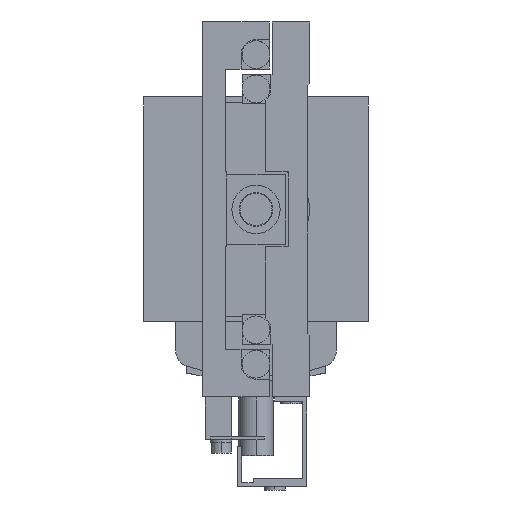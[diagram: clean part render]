
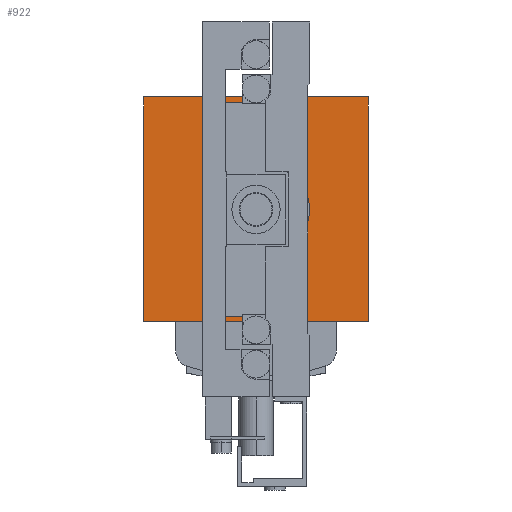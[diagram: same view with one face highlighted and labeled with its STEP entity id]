
A CAD part, left-side view. The second image highlights one B-rep face of the part: STEP entity #922.
In plain terms, the highlighted planar face has unit normal (-1, 0, 0).
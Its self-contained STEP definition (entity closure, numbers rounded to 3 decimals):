
#922=ADVANCED_FACE('',(#2249,#2250),#2251,.F.);
#2249=FACE_BOUND('',#3609,.T.);
#2250=FACE_OUTER_BOUND('',#3610,.T.);
#2251=PLANE('',#3611);
#3609=EDGE_LOOP('',(#8493,#8494,#8495,#8496,#8497,#8498,#8499,#8500,#8501,#8502,#8503,#8504,#8505,#8506,#8507,#8508));
#3610=EDGE_LOOP('',(#8509,#8510,#8511,#8512));
#3611=AXIS2_PLACEMENT_3D('',#8513,#8514,#8515);
#8493=ORIENTED_EDGE('',*,*,#10224,.F.);
#8494=ORIENTED_EDGE('',*,*,#10233,.F.);
#8495=ORIENTED_EDGE('',*,*,#10229,.F.);
#8496=ORIENTED_EDGE('',*,*,#10177,.T.);
#8497=ORIENTED_EDGE('',*,*,#10059,.F.);
#8498=ORIENTED_EDGE('',*,*,#10116,.F.);
#8499=ORIENTED_EDGE('',*,*,#10225,.F.);
#8500=ORIENTED_EDGE('',*,*,#10234,.F.);
#8501=ORIENTED_EDGE('',*,*,#10212,.T.);
#8502=ORIENTED_EDGE('',*,*,#10107,.F.);
#8503=ORIENTED_EDGE('',*,*,#10069,.T.);
#8504=ORIENTED_EDGE('',*,*,#10143,.T.);
#8505=ORIENTED_EDGE('',*,*,#10167,.F.);
#8506=ORIENTED_EDGE('',*,*,#10232,.F.);
#8507=ORIENTED_EDGE('',*,*,#10213,.T.);
#8508=ORIENTED_EDGE('',*,*,#10011,.F.);
#8509=ORIENTED_EDGE('',*,*,#10236,.F.);
#8510=ORIENTED_EDGE('',*,*,#10237,.F.);
#8511=ORIENTED_EDGE('',*,*,#10238,.F.);
#8512=ORIENTED_EDGE('',*,*,#10239,.F.);
#8513=CARTESIAN_POINT('',(72.5,-11.,21.));
#8514=DIRECTION('',(1.0,0.0,0.));
#8515=DIRECTION('',(0.0,-1.0,0.0));
#10011=EDGE_CURVE('',#12432,#12428,#12434,.F.);
#10059=EDGE_CURVE('',#12523,#12524,#12525,.T.);
#10069=EDGE_CURVE('',#12543,#12544,#12545,.T.);
#10107=EDGE_CURVE('',#12543,#12610,#12611,.T.);
#10116=EDGE_CURVE('',#12623,#12523,#12625,.T.);
#10143=EDGE_CURVE('',#12544,#12664,#12666,.T.);
#10167=EDGE_CURVE('',#12701,#12664,#12703,.T.);
#10177=EDGE_CURVE('',#12717,#12524,#12718,.T.);
#10212=EDGE_CURVE('',#12428,#12610,#12764,.T.);
#10213=EDGE_CURVE('',#12765,#12428,#12766,.T.);
#10224=EDGE_CURVE('',#12780,#12432,#12781,.T.);
#10225=EDGE_CURVE('',#12432,#12623,#12782,.T.);
#10229=EDGE_CURVE('',#12717,#12786,#12787,.T.);
#10232=EDGE_CURVE('',#12765,#12701,#12790,.T.);
#10233=EDGE_CURVE('',#12786,#12780,#12791,.T.);
#10234=EDGE_CURVE('',#12428,#12432,#12792,.F.);
#10236=EDGE_CURVE('',#12794,#12795,#12796,.T.);
#10237=EDGE_CURVE('',#12797,#12794,#12798,.T.);
#10238=EDGE_CURVE('',#12799,#12797,#12800,.T.);
#10239=EDGE_CURVE('',#12795,#12799,#12801,.T.);
#12428=VERTEX_POINT('',#15876);
#12432=VERTEX_POINT('',#15881);
#12434=CIRCLE('',#15884,10.);
#12523=VERTEX_POINT('',#15992);
#12524=VERTEX_POINT('',#15993);
#12525=LINE('',#15994,#15995);
#12543=VERTEX_POINT('',#16022);
#12544=VERTEX_POINT('',#16023);
#12545=LINE('',#16024,#16025);
#12610=VERTEX_POINT('',#16122);
#12611=LINE('',#16123,#16124);
#12623=VERTEX_POINT('',#16142);
#12625=LINE('',#16145,#16146);
#12664=VERTEX_POINT('',#16203);
#12666=LINE('',#16206,#16207);
#12701=VERTEX_POINT('',#16262);
#12703=LINE('',#16265,#16266);
#12717=VERTEX_POINT('',#16289);
#12718=LINE('',#16290,#16291);
#12764=LINE('',#16364,#16365);
#12765=VERTEX_POINT('',#16366);
#12766=LINE('',#16367,#16368);
#12780=VERTEX_POINT('',#16392);
#12781=LINE('',#16393,#16394);
#12782=LINE('',#16395,#16396);
#12786=VERTEX_POINT('',#16403);
#12787=LINE('',#16404,#16405);
#12790=LINE('',#16410,#16411);
#12791=LINE('',#16412,#16413);
#12792=CIRCLE('',#16414,10.);
#12794=VERTEX_POINT('',#16416);
#12795=VERTEX_POINT('',#16417);
#12796=LINE('',#16418,#16419);
#12797=VERTEX_POINT('',#16420);
#12798=LINE('',#16421,#16422);
#12799=VERTEX_POINT('',#16423);
#12800=LINE('',#16424,#16425);
#12801=LINE('',#16426,#16427);
#15876=CARTESIAN_POINT('',(72.5,10.0,10.));
#15881=CARTESIAN_POINT('',(72.5,10.0,-10.));
#15884=AXIS2_PLACEMENT_3D('',#18747,#18748,#18749);
#15992=CARTESIAN_POINT('',(72.5,18.5,-20.0));
#15993=CARTESIAN_POINT('',(72.5,1.5,-20.0));
#15994=CARTESIAN_POINT('',(72.5,223.901,-20.0));
#15995=VECTOR('',#18853,1000.0);
#16022=CARTESIAN_POINT('',(72.5,18.5,20.0));
#16023=CARTESIAN_POINT('',(72.5,1.5,20.0));
#16024=CARTESIAN_POINT('',(72.5,19.5,20.0));
#16025=VECTOR('',#18863,1000.0);
#16122=CARTESIAN_POINT('',(72.5,18.5,10.0));
#16123=CARTESIAN_POINT('',(72.5,18.5,20.0));
#16124=VECTOR('',#18911,1000.0);
#16142=CARTESIAN_POINT('',(72.5,18.5,-10.0));
#16145=CARTESIAN_POINT('',(72.5,18.5,20.0));
#16146=VECTOR('',#18922,1000.0);
#16203=CARTESIAN_POINT('',(72.5,1.5,14.25));
#16206=CARTESIAN_POINT('',(72.5,1.5,20.0));
#16207=VECTOR('',#18963,1000.0);
#16262=CARTESIAN_POINT('',(72.5,7.75,14.25));
#16265=CARTESIAN_POINT('',(72.5,7.75,14.25));
#16266=VECTOR('',#18991,1000.0);
#16289=CARTESIAN_POINT('',(72.5,1.5,-14.25));
#16290=CARTESIAN_POINT('',(72.5,1.5,20.0));
#16291=VECTOR('',#19001,1000.0);
#16364=CARTESIAN_POINT('',(72.5,19.5,10.0));
#16365=VECTOR('',#19050,1000.0);
#16366=CARTESIAN_POINT('',(72.5,7.75,10.0));
#16367=CARTESIAN_POINT('',(72.5,19.5,10.0));
#16368=VECTOR('',#19051,1000.0);
#16392=CARTESIAN_POINT('',(72.5,7.75,-10.0));
#16393=CARTESIAN_POINT('',(72.5,7.75,-10.0));
#16394=VECTOR('',#19062,1000.0);
#16395=CARTESIAN_POINT('',(72.5,7.75,-10.0));
#16396=VECTOR('',#19063,1000.0);
#16403=CARTESIAN_POINT('',(72.5,7.75,-14.25));
#16404=CARTESIAN_POINT('',(72.5,0.5,-14.25));
#16405=VECTOR('',#19067,1000.0);
#16410=CARTESIAN_POINT('',(72.5,7.75,10.0));
#16411=VECTOR('',#19070,1000.0);
#16412=CARTESIAN_POINT('',(72.5,7.75,-14.25));
#16413=VECTOR('',#19071,1000.0);
#16414=AXIS2_PLACEMENT_3D('',#19072,#19073,#19074);
#16416=CARTESIAN_POINT('',(72.5,31.,21.));
#16417=CARTESIAN_POINT('',(72.5,-11.,21.));
#16418=CARTESIAN_POINT('',(72.5,31.,21.));
#16419=VECTOR('',#19078,1000.0);
#16420=CARTESIAN_POINT('',(72.5,31.,-21.));
#16421=CARTESIAN_POINT('',(72.5,31.,-21.));
#16422=VECTOR('',#19079,1000.0);
#16423=CARTESIAN_POINT('',(72.5,-11.,-21.));
#16424=CARTESIAN_POINT('',(72.5,-11.,-21.));
#16425=VECTOR('',#19080,1000.0);
#16426=CARTESIAN_POINT('',(72.5,-11.,21.));
#16427=VECTOR('',#19081,1000.0);
#18747=CARTESIAN_POINT('',(72.5,10.0,0.));
#18748=DIRECTION('',(1.0,0.0,0.));
#18749=DIRECTION('',(0.,0.0,-1.0));
#18853=DIRECTION('',(0.0,-1.0,0.0));
#18863=DIRECTION('',(0.0,-1.0,0.0));
#18911=DIRECTION('',(0.0,0.0,-1.0));
#18922=DIRECTION('',(0.0,0.0,-1.0));
#18963=DIRECTION('',(0.0,0.0,-1.0));
#18991=DIRECTION('',(0.0,-1.0,0.0));
#19001=DIRECTION('',(0.0,0.0,-1.0));
#19050=DIRECTION('',(0.0,1.0,0.0));
#19051=DIRECTION('',(0.0,1.0,0.0));
#19062=DIRECTION('',(0.0,1.0,0.0));
#19063=DIRECTION('',(0.0,1.0,0.0));
#19067=DIRECTION('',(0.0,1.0,0.0));
#19070=DIRECTION('',(0.0,0.0,1.0));
#19071=DIRECTION('',(0.0,0.0,1.0));
#19072=CARTESIAN_POINT('',(72.5,10.0,0.));
#19073=DIRECTION('',(1.0,0.0,0.));
#19074=DIRECTION('',(0.,0.0,-1.0));
#19078=DIRECTION('',(0.0,-1.0,0.0));
#19079=DIRECTION('',(0.,0.0,1.0));
#19080=DIRECTION('',(0.0,1.0,0.0));
#19081=DIRECTION('',(0.,0.0,-1.0));
